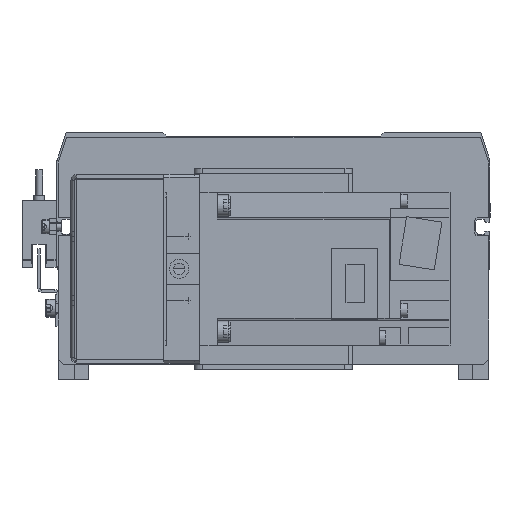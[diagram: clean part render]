
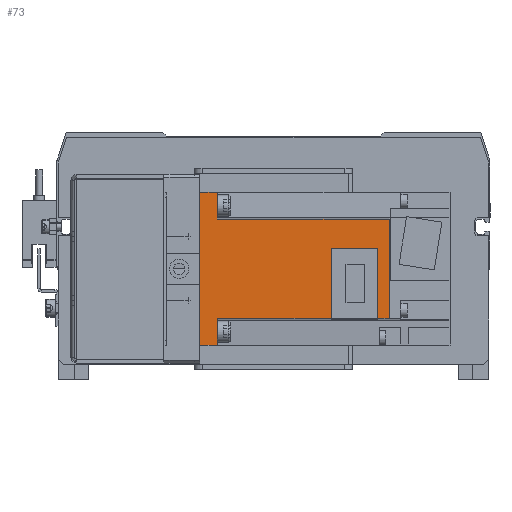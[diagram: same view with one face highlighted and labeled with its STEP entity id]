
A CAD part, front view. The second image highlights one B-rep face of the part: STEP entity #73.
In plain terms, the highlighted planar face has unit normal (0, -1, 0) as drawn and (1, 0, 0) by its records, which use the part's own axes.
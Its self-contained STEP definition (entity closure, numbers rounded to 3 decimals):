
#73 = ADVANCED_FACE ( 'NONE', ( #7812 ), #11950, .F. ) ;
#315 = CARTESIAN_POINT ( 'NONE',  ( 30., 74.5, 8. ) ) ;
#1688 = DIRECTION ( 'NONE',  ( -1., 0., 0. ) ) ;
#1959 = VERTEX_POINT ( 'NONE', #40540 ) ;
#2377 = CARTESIAN_POINT ( 'NONE',  ( 30., 7., -19.515 ) ) ;
#2552 = VECTOR ( 'NONE', #28504, 1000. ) ;
#3152 = CARTESIAN_POINT ( 'NONE',  ( 30., 7., 30. ) ) ;
#3286 = EDGE_CURVE ( 'NONE', #1959, #11048, #9540, .T. ) ;
#3959 = DIRECTION ( 'NONE',  ( 0., 1., 0. ) ) ;
#4785 = CARTESIAN_POINT ( 'NONE',  ( 30., 74.5, 19.515 ) ) ;
#5154 = CARTESIAN_POINT ( 'NONE',  ( 30., 74.5, -19.515 ) ) ;
#5362 = VERTEX_POINT ( 'NONE', #2377 ) ;
#5386 = VERTEX_POINT ( 'NONE', #31980 ) ;
#5442 = CARTESIAN_POINT ( 'NONE',  ( 30., 74.5, -19.515 ) ) ;
#5478 = VECTOR ( 'NONE', #13842, 1000. ) ;
#5898 = CARTESIAN_POINT ( 'NONE',  ( 30., 51.7, -19.515 ) ) ;
#6580 = VECTOR ( 'NONE', #39918, 1000. ) ;
#7812 = FACE_OUTER_BOUND ( 'NONE', #18124, .T. ) ;
#8574 = VERTEX_POINT ( 'NONE', #5898 ) ;
#8626 = VERTEX_POINT ( 'NONE', #15383 ) ;
#8712 = DIRECTION ( 'NONE',  ( 0., -1., 0. ) ) ;
#9540 = LINE ( 'NONE', #39420, #35379 ) ;
#9664 = LINE ( 'NONE', #17503, #36992 ) ;
#10378 = EDGE_CURVE ( 'NONE', #1959, #16673, #36905, .T. ) ;
#10796 = CARTESIAN_POINT ( 'NONE',  ( 30., 74.5, -30. ) ) ;
#11036 = VERTEX_POINT ( 'NONE', #31051 ) ;
#11048 = VERTEX_POINT ( 'NONE', #15317 ) ;
#11950 = PLANE ( 'NONE',  #17207 ) ;
#12627 = VERTEX_POINT ( 'NONE', #5154 ) ;
#12733 = EDGE_CURVE ( 'NONE', #16673, #36630, #37390, .T. ) ;
#13202 = ORIENTED_EDGE ( 'NONE', *, *, #22296, .F. ) ;
#13611 = CARTESIAN_POINT ( 'NONE',  ( 30., 51.7, 30. ) ) ;
#13645 = VERTEX_POINT ( 'NONE', #36536 ) ;
#13842 = DIRECTION ( 'NONE',  ( 0., 0., 1. ) ) ;
#14678 = EDGE_CURVE ( 'NONE', #8626, #13645, #36384, .T. ) ;
#15317 = CARTESIAN_POINT ( 'NONE',  ( 30., 0., -30. ) ) ;
#15383 = CARTESIAN_POINT ( 'NONE',  ( 30., 69.85, 8. ) ) ;
#15484 = CARTESIAN_POINT ( 'NONE',  ( 30., 7., 30. ) ) ;
#15739 = CARTESIAN_POINT ( 'NONE',  ( 30., 74.5, 30. ) ) ;
#16631 = DIRECTION ( 'NONE',  ( 0., -1., 0. ) ) ;
#16641 = VECTOR ( 'NONE', #38386, 1000. ) ;
#16673 = VERTEX_POINT ( 'NONE', #3152 ) ;
#16737 = DIRECTION ( 'NONE',  ( 0., 0., -1. ) ) ;
#17207 = AXIS2_PLACEMENT_3D ( 'NONE', #28199, #1688, #27781 ) ;
#17503 = CARTESIAN_POINT ( 'NONE',  ( 30., 74.5, 30. ) ) ;
#18124 = EDGE_LOOP ( 'NONE', ( #34889, #13202, #37569, #21933, #26256, #32109, #39422, #36393, #33753, #21378, #31066, #41586 ) ) ;
#20958 = EDGE_CURVE ( 'NONE', #8574, #5362, #33607, .T. ) ;
#21323 = DIRECTION ( 'NONE',  ( 0., -1., 0. ) ) ;
#21378 = ORIENTED_EDGE ( 'NONE', *, *, #30807, .F. ) ;
#21933 = ORIENTED_EDGE ( 'NONE', *, *, #12733, .F. ) ;
#22296 = EDGE_CURVE ( 'NONE', #24982, #12627, #9664, .T. ) ;
#23766 = LINE ( 'NONE', #5442, #38895 ) ;
#24835 = EDGE_CURVE ( 'NONE', #5386, #8626, #28258, .T. ) ;
#24858 = DIRECTION ( 'NONE',  ( 0., 0., -1. ) ) ;
#24982 = VERTEX_POINT ( 'NONE', #4785 ) ;
#26256 = ORIENTED_EDGE ( 'NONE', *, *, #10378, .F. ) ;
#26561 = EDGE_CURVE ( 'NONE', #11048, #11036, #40160, .T. ) ;
#27011 = VECTOR ( 'NONE', #21323, 1000. ) ;
#27781 = DIRECTION ( 'NONE',  ( 0., 0., 1. ) ) ;
#27901 = EDGE_CURVE ( 'NONE', #5362, #11036, #29402, .T. ) ;
#28199 = CARTESIAN_POINT ( 'NONE',  ( 30., 74.5, 30. ) ) ;
#28226 = VECTOR ( 'NONE', #16737, 1000. ) ;
#28258 = LINE ( 'NONE', #33121, #5478 ) ;
#28268 = EDGE_CURVE ( 'NONE', #36630, #24982, #41509, .T. ) ;
#28504 = DIRECTION ( 'NONE',  ( 0., 0., -1. ) ) ;
#28770 = VECTOR ( 'NONE', #16631, 1000. ) ;
#29402 = LINE ( 'NONE', #15484, #2552 ) ;
#30807 = EDGE_CURVE ( 'NONE', #13645, #8574, #32279, .T. ) ;
#31047 = VECTOR ( 'NONE', #3959, 1000. ) ;
#31051 = CARTESIAN_POINT ( 'NONE',  ( 30., 7., -30. ) ) ;
#31066 = ORIENTED_EDGE ( 'NONE', *, *, #14678, .F. ) ;
#31091 = CARTESIAN_POINT ( 'NONE',  ( 30., 74.5, -19.515 ) ) ;
#31980 = CARTESIAN_POINT ( 'NONE',  ( 30., 69.85, -19.515 ) ) ;
#32109 = ORIENTED_EDGE ( 'NONE', *, *, #3286, .T. ) ;
#32279 = LINE ( 'NONE', #13611, #28226 ) ;
#32624 = CARTESIAN_POINT ( 'NONE',  ( 30., 7., 19.515 ) ) ;
#32688 = VECTOR ( 'NONE', #24858, 1000. ) ;
#32947 = DIRECTION ( 'NONE',  ( 0., 0., -1. ) ) ;
#33121 = CARTESIAN_POINT ( 'NONE',  ( 30., 69.85, 30. ) ) ;
#33607 = LINE ( 'NONE', #31091, #27011 ) ;
#33753 = ORIENTED_EDGE ( 'NONE', *, *, #20958, .F. ) ;
#34482 = CARTESIAN_POINT ( 'NONE',  ( 30., 7., 30. ) ) ;
#34889 = ORIENTED_EDGE ( 'NONE', *, *, #36052, .F. ) ;
#35379 = VECTOR ( 'NONE', #32947, 1000. ) ;
#36052 = EDGE_CURVE ( 'NONE', #12627, #5386, #23766, .T. ) ;
#36384 = LINE ( 'NONE', #315, #28770 ) ;
#36393 = ORIENTED_EDGE ( 'NONE', *, *, #27901, .F. ) ;
#36536 = CARTESIAN_POINT ( 'NONE',  ( 30., 51.7, 8. ) ) ;
#36624 = DIRECTION ( 'NONE',  ( 0., 0., -1. ) ) ;
#36630 = VERTEX_POINT ( 'NONE', #32624 ) ;
#36905 = LINE ( 'NONE', #15739, #16641 ) ;
#36992 = VECTOR ( 'NONE', #36624, 1000. ) ;
#37390 = LINE ( 'NONE', #34482, #32688 ) ;
#37569 = ORIENTED_EDGE ( 'NONE', *, *, #28268, .F. ) ;
#38386 = DIRECTION ( 'NONE',  ( 0., 1., 0. ) ) ;
#38895 = VECTOR ( 'NONE', #8712, 1000. ) ;
#39420 = CARTESIAN_POINT ( 'NONE',  ( 30., 0., 0. ) ) ;
#39422 = ORIENTED_EDGE ( 'NONE', *, *, #26561, .T. ) ;
#39918 = DIRECTION ( 'NONE',  ( 0., 1., 0. ) ) ;
#40160 = LINE ( 'NONE', #10796, #31047 ) ;
#40351 = CARTESIAN_POINT ( 'NONE',  ( 30., 74.5, 19.515 ) ) ;
#40540 = CARTESIAN_POINT ( 'NONE',  ( 30., 0., 30. ) ) ;
#41509 = LINE ( 'NONE', #40351, #6580 ) ;
#41586 = ORIENTED_EDGE ( 'NONE', *, *, #24835, .F. ) ;
